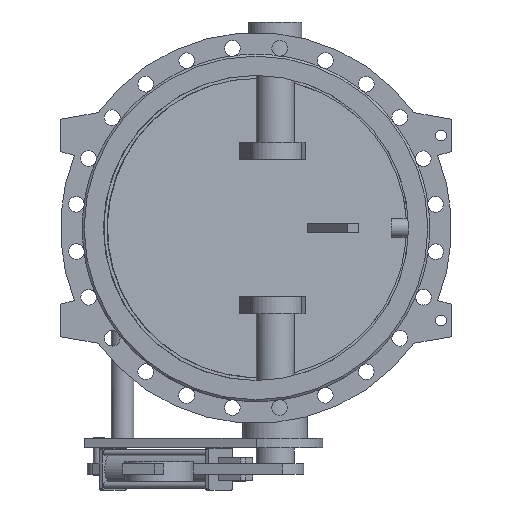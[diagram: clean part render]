
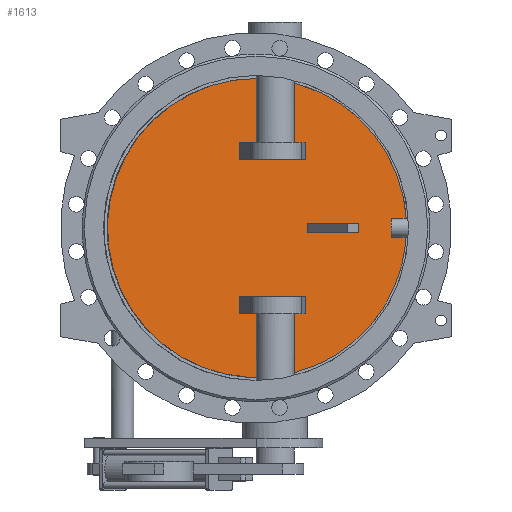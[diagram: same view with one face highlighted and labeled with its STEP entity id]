
A CAD part, front view. The second image highlights one B-rep face of the part: STEP entity #1613.
In plain terms, the highlighted planar face has unit normal (0.131, -0.991, 0).
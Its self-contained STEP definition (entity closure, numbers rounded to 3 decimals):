
#1613=ADVANCED_FACE('',(#3564,#3566,#3568,#3570),#3572,.T.);
#3564=FACE_BOUND('',#3565,.T.);
#3565=EDGE_LOOP('',(#5047));
#3566=FACE_BOUND('',#3567,.T.);
#3567=EDGE_LOOP('',(#5048,#5049,#5050,#5051));
#3568=FACE_BOUND('',#3569,.T.);
#3569=EDGE_LOOP('',(#5052,#5053,#5054,#5055));
#3570=FACE_BOUND('',#3571,.T.);
#3571=EDGE_LOOP('',(#5056,#5057,#5058,#5059));
#3572=PLANE('',#3573);
#3573=AXIS2_PLACEMENT_3D('',#3574,#3575,#3576);
#3574=CARTESIAN_POINT('',(-1.272,9.66,0.));
#3575=DIRECTION('',(0.131,-0.991,0.));
#3576=DIRECTION('',(0.,0.,-1.));
#5047=ORIENTED_EDGE('',*,*,#5716,.T.);
#5048=ORIENTED_EDGE('',*,*,#5742,.F.);
#5049=ORIENTED_EDGE('',*,*,#5743,.F.);
#5050=ORIENTED_EDGE('',*,*,#5744,.F.);
#5051=ORIENTED_EDGE('',*,*,#5745,.F.);
#5052=ORIENTED_EDGE('',*,*,#5746,.F.);
#5053=ORIENTED_EDGE('',*,*,#5747,.F.);
#5054=ORIENTED_EDGE('',*,*,#5748,.F.);
#5055=ORIENTED_EDGE('',*,*,#5749,.F.);
#5056=ORIENTED_EDGE('',*,*,#5750,.F.);
#5057=ORIENTED_EDGE('',*,*,#5751,.F.);
#5058=ORIENTED_EDGE('',*,*,#5752,.F.);
#5059=ORIENTED_EDGE('',*,*,#5753,.F.);
#5716=EDGE_CURVE('',#6712,#6712,#6713,.T.);
#5742=EDGE_CURVE('',#6758,#6759,#6760,.T.);
#5743=EDGE_CURVE('',#6761,#6758,#6762,.F.);
#5744=EDGE_CURVE('',#6763,#6761,#6764,.T.);
#5745=EDGE_CURVE('',#6759,#6763,#6765,.T.);
#5746=EDGE_CURVE('',#6766,#6767,#6768,.F.);
#5747=EDGE_CURVE('',#6769,#6766,#6770,.T.);
#5748=EDGE_CURVE('',#6771,#6769,#6772,.T.);
#5749=EDGE_CURVE('',#6767,#6771,#6773,.T.);
#5750=EDGE_CURVE('',#6774,#6775,#6776,.T.);
#5751=EDGE_CURVE('',#6777,#6774,#6778,.F.);
#5752=EDGE_CURVE('',#6779,#6777,#6780,.F.);
#5753=EDGE_CURVE('',#6775,#6779,#6781,.F.);
#6712=VERTEX_POINT('',#12560);
#6713=B_SPLINE_CURVE_WITH_KNOTS('',3,
(#12561,#12562,#12563,#12564,#12565,#12566,#12567,#12568,#12569,#12570,#12571,#12572,
#12573,#12574,#12575,#12576,#12577,#12578,#12579,#12580,#12581,#12582,#12583,#12584,
#12585,#12586,#12587,#12588,#12589,#12590,#12591,#12592,#12593,#12594,#12595,#12596,
#12597,#12598,#12599,#12600,#12601,#12602,#12603,#12604,#12605,#12606,#12607,#12608,
#12609,#12610,#12611),
.UNSPECIFIED.,.T.,.F.,
(4,1,1,1,1,1,1,1,1,1,1,1,1,1,1,1,1,1,1,1,1,1,1,1,1,1,1,1,1,1,1,1,1,1,1,1,1,1,1,1,
1,1,1,1,1,1,1,1,4),
(0.,0.021,0.042,0.063,0.084,
0.105,0.126,0.147,0.168,0.189,
0.211,0.232,0.253,0.274,0.295,
0.316,0.337,0.358,0.379,0.4,
0.421,0.442,0.463,0.484,0.505,
0.527,0.548,0.569,0.59,0.611,
0.632,0.653,0.674,0.695,0.716,
0.737,0.758,0.779,0.8,0.821,
0.842,0.864,0.885,0.906,0.927,
0.948,0.969,0.986,1.),
.UNSPECIFIED.);
#6758=VERTEX_POINT('',#13174);
#6759=VERTEX_POINT('',#13175);
#6760=LINE('',#13176,#13177);
#6761=VERTEX_POINT('',#13179);
#6762=LINE('',#13180,#13181);
#6763=VERTEX_POINT('',#13183);
#6764=LINE('',#13184,#13185);
#6765=LINE('',#13187,#13188);
#6766=VERTEX_POINT('',#13190);
#6767=VERTEX_POINT('',#13191);
#6768=LINE('',#13192,#13193);
#6769=VERTEX_POINT('',#13195);
#6770=LINE('',#13196,#13197);
#6771=VERTEX_POINT('',#13199);
#6772=LINE('',#13200,#13201);
#6773=LINE('',#13203,#13204);
#6774=VERTEX_POINT('',#13206);
#6775=VERTEX_POINT('',#13207);
#6776=LINE('',#13208,#13209);
#6777=VERTEX_POINT('',#13211);
#6778=LINE('',#13212,#13213);
#6779=VERTEX_POINT('',#13215);
#6780=LINE('',#13216,#13217);
#6781=LINE('',#13219,#13220);
#12560=CARTESIAN_POINT('',(2.611,10.171,392.));
#12561=CARTESIAN_POINT('',(2.611,10.171,392.));
#12562=CARTESIAN_POINT('',(-14.616,7.903,392.));
#12563=CARTESIAN_POINT('',(-49.11,3.362,389.724));
#12564=CARTESIAN_POINT('',(-100.015,-3.34,379.519));
#12565=CARTESIAN_POINT('',(-149.198,-9.815,362.666));
#12566=CARTESIAN_POINT('',(-195.753,-15.944,339.455));
#12567=CARTESIAN_POINT('',(-238.826,-21.615,310.311));
#12568=CARTESIAN_POINT('',(-277.674,-26.729,275.739));
#12569=CARTESIAN_POINT('',(-311.615,-31.197,236.349));
#12570=CARTESIAN_POINT('',(-340.058,-34.942,192.829));
#12571=CARTESIAN_POINT('',(-362.508,-37.898,145.94));
#12572=CARTESIAN_POINT('',(-378.573,-40.013,96.504));
#12573=CARTESIAN_POINT('',(-387.975,-41.25,45.382));
#12574=CARTESIAN_POINT('',(-390.549,-41.589,-6.533));
#12575=CARTESIAN_POINT('',(-386.251,-41.023,-58.334));
#12576=CARTESIAN_POINT('',(-375.155,-39.563,-109.116));
#12577=CARTESIAN_POINT('',(-357.454,-37.232,-157.994));
#12578=CARTESIAN_POINT('',(-333.457,-34.073,-204.112));
#12579=CARTESIAN_POINT('',(-303.58,-30.14,-246.666));
#12580=CARTESIAN_POINT('',(-268.345,-25.501,-284.909));
#12581=CARTESIAN_POINT('',(-228.365,-20.237,-318.171));
#12582=CARTESIAN_POINT('',(-184.34,-14.441,-345.87));
#12583=CARTESIAN_POINT('',(-137.039,-8.214,-367.518));
#12584=CARTESIAN_POINT('',(-87.29,-1.665,-382.734));
#12585=CARTESIAN_POINT('',(-35.965,5.093,-391.251));
#12586=CARTESIAN_POINT('',(16.036,11.939,-392.918));
#12587=CARTESIAN_POINT('',(67.801,18.754,-387.706));
#12588=CARTESIAN_POINT('',(118.423,25.418,-375.708));
#12589=CARTESIAN_POINT('',(167.014,31.815,-357.135));
#12590=CARTESIAN_POINT('',(212.723,37.833,-332.314));
#12591=CARTESIAN_POINT('',(254.751,43.366,-301.681));
#12592=CARTESIAN_POINT('',(292.365,48.318,-265.774));
#12593=CARTESIAN_POINT('',(324.907,52.602,-225.222));
#12594=CARTESIAN_POINT('',(351.811,56.144,-180.735));
#12595=CARTESIAN_POINT('',(372.607,58.882,-133.092));
#12596=CARTESIAN_POINT('',(386.935,60.768,-83.125));
#12597=CARTESIAN_POINT('',(394.544,61.77,-31.706));
#12598=CARTESIAN_POINT('',(395.302,61.87,20.267));
#12599=CARTESIAN_POINT('',(389.195,61.066,71.886));
#12600=CARTESIAN_POINT('',(376.331,59.372,122.251));
#12601=CARTESIAN_POINT('',(356.932,56.818,170.481));
#12602=CARTESIAN_POINT('',(331.336,53.449,215.733));
#12603=CARTESIAN_POINT('',(299.989,49.322,257.217));
#12604=CARTESIAN_POINT('',(263.436,44.509,294.208));
#12605=CARTESIAN_POINT('',(222.326,39.097,326.045));
#12606=CARTESIAN_POINT('',(177.427,33.186,352.15));
#12607=CARTESIAN_POINT('',(129.39,26.862,372.154));
#12608=CARTESIAN_POINT('',(82.011,20.624,384.863));
#12609=CARTESIAN_POINT('',(39.415,15.016,390.9));
#12610=CARTESIAN_POINT('',(13.859,11.652,392.));
#12611=CARTESIAN_POINT('',(2.611,10.171,392.));
#13174=CARTESIAN_POINT('',(249.016,42.611,-12.5));
#13175=CARTESIAN_POINT('',(249.016,42.611,12.5));
#13176=CARTESIAN_POINT('',(249.016,42.611,-12.5));
#13177=VECTOR('',#13178,1.);
#13178=DIRECTION('',(0.,0.,1.));
#13179=CARTESIAN_POINT('',(135.,27.601,-12.5));
#13180=CARTESIAN_POINT('',(249.016,42.611,-12.5));
#13181=VECTOR('',#13182,1.);
#13182=DIRECTION('',(-0.991,-0.131,0.));
#13183=CARTESIAN_POINT('',(135.,27.601,12.5));
#13184=CARTESIAN_POINT('',(135.,27.601,12.5));
#13185=VECTOR('',#13186,1.);
#13186=DIRECTION('',(0.,0.,-1.));
#13187=CARTESIAN_POINT('',(249.016,42.611,12.5));
#13188=VECTOR('',#13189,1.);
#13189=DIRECTION('',(-0.991,-0.131,0.));
#13190=CARTESIAN_POINT('',(-44.007,4.034,-225.));
#13191=CARTESIAN_POINT('',(129.407,26.864,-225.));
#13192=CARTESIAN_POINT('',(129.407,26.864,-225.));
#13193=VECTOR('',#13194,1.);
#13194=DIRECTION('',(-0.991,-0.131,0.));
#13195=CARTESIAN_POINT('',(-44.007,4.034,-180.));
#13196=CARTESIAN_POINT('',(-44.007,4.034,-180.));
#13197=VECTOR('',#13198,1.);
#13198=DIRECTION('',(0.,0.,-1.));
#13199=CARTESIAN_POINT('',(129.407,26.864,-180.));
#13200=CARTESIAN_POINT('',(129.407,26.864,-180.));
#13201=VECTOR('',#13202,1.);
#13202=DIRECTION('',(-0.991,-0.131,0.));
#13203=CARTESIAN_POINT('',(129.407,26.864,-225.));
#13204=VECTOR('',#13205,1.);
#13205=DIRECTION('',(0.,0.,1.));
#13206=CARTESIAN_POINT('',(129.407,26.864,225.));
#13207=CARTESIAN_POINT('',(-44.007,4.034,225.));
#13208=CARTESIAN_POINT('',(129.407,26.864,225.));
#13209=VECTOR('',#13210,1.);
#13210=DIRECTION('',(-0.991,-0.131,0.));
#13211=CARTESIAN_POINT('',(129.407,26.864,180.));
#13212=CARTESIAN_POINT('',(129.407,26.864,225.));
#13213=VECTOR('',#13214,1.);
#13214=DIRECTION('',(0.,0.,-1.));
#13215=CARTESIAN_POINT('',(-44.007,4.034,180.));
#13216=CARTESIAN_POINT('',(129.407,26.864,180.));
#13217=VECTOR('',#13218,1.);
#13218=DIRECTION('',(-0.991,-0.131,0.));
#13219=CARTESIAN_POINT('',(-44.007,4.034,180.));
#13220=VECTOR('',#13221,1.);
#13221=DIRECTION('',(0.,0.,1.));
